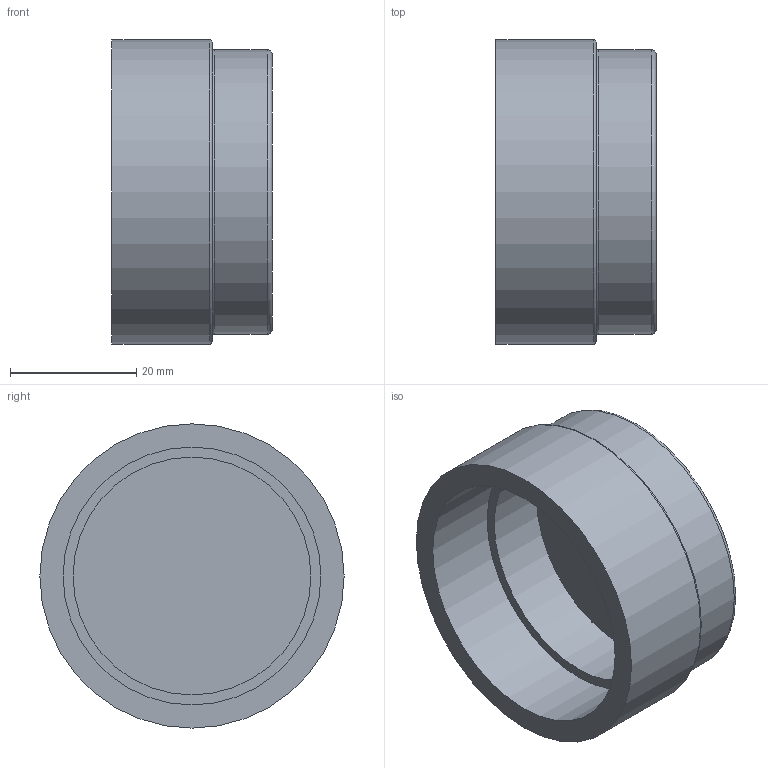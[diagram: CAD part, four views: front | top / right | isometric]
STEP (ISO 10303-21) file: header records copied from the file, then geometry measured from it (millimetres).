
FILE_DESCRIPTION(/* description */ ('VIC SS CAP No 460DX (OGS)'),/* implementation_level */ '2;1');
FILE_NAME(/* name */ 'C:\Files for Export\SS Duplex\STEP\Victaulic_SS-OGS_Cap_No 460DX (OGS)\Victaulic_SS-OGS_Cap_No 460DX (OGS)_1.5 (40).stp',/* time_stamp */ '2024-08-28T10:35:48+02:00',/* author */ ('CORINNE GRAY'),/* organization */ ('Victaulic'),/* preprocessor_version */ 'ST-DEVELOPER v18.1',/* originating_system */ 'Autodesk Inventor 2020',/* authorisation */ '');
FILE_SCHEMA (('AUTOMOTIVE_DESIGN { 1 0 10303 214 3 1 1 }'));
Length unit declared in the file: inch
Products named in the file (1): 460DX-01.5
Bounding box: 25.4 x 48.26 x 48.26 mm (x, y, z)
Volume: 17570.4 mm3; surface area: 10014.9 mm2
Topology: 1 solids, 1 shells, 12 faces, 32 edges, 25 vertices
Faces by surface type: plane 5, cylinder 4, torus 3
Full cylindrical faces by diameter (mm): 37.719 x1, 40.894 x1, 45.085 x1, 48.26 x1
Entity records: 467 total; most frequent: DIRECTION 86, CARTESIAN_POINT 70, ORIENTED_EDGE 64, AXIS2_PLACEMENT_3D 41, EDGE_CURVE 32, CIRCLE 28, VERTEX_POINT 25, EDGE_LOOP 15
